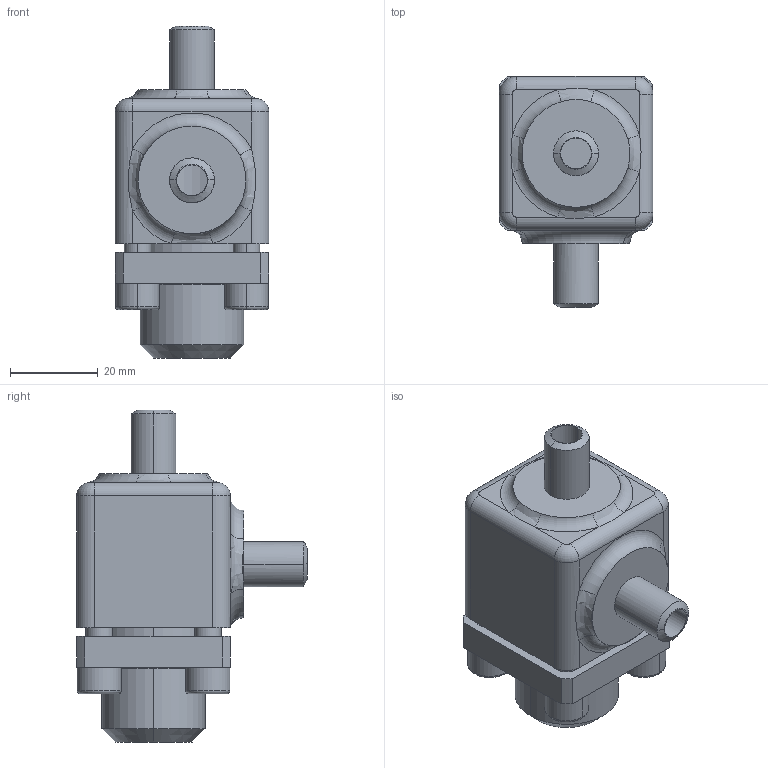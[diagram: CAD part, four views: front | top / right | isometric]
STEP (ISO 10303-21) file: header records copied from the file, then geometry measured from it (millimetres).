
FILE_DESCRIPTION (( 'STEP AP214' ), '1' );
FILE_NAME ('RV98400-DN006_R1_PS40.STEP', '2006-05-02T09:30:07', ( 'Herr Grams' ), ( 'AWP GmbH' ), 'SwSTEP 2.0', 'SolidWorks 2002296', '' );
FILE_SCHEMA (( 'AUTOMOTIVE_DESIGN' ));
Length unit declared in the file: millimetre
Products named in the file (5): RV98400-DN006_R1_PS40; Gehäuse96400E06-DN06_PS40_R1_Standard; RV98300E10_Deck+Schr-DN6-15_Standard; Deckel98300E10-DN6-15_PS40_Standard; Zylinderschraube-DIN912_M 6x 18
Assembly tree (7 placements, depth 3):
  RV98400-DN006_R1_PS40
    Gehäuse96400E06-DN06_PS40_R1_Standard
    RV98300E10_Deck+Schr-DN6-15_Standard
      Zylinderschraube-DIN912_M 6x 18  x4
      Deckel98300E10-DN6-15_PS40_Standard
Bounding box: 35 x 52.5 x 75.5 mm (x, y, z)
Volume: 49250.4 mm3; surface area: 19622.9 mm2
Topology: 6 solids, 6 shells, 173 faces, 381 edges, 236 vertices
Faces by surface type: plane 67, cylinder 62, torus 21, cone 16, bspline 7
Entity records: 8184 total; most frequent: CARTESIAN_POINT 4867, DIRECTION 641, ORIENTED_EDGE 534, EDGE_CURVE 267, AXIS2_PLACEMENT_3D 267, VERTEX_POINT 164, CIRCLE 144, EDGE_LOOP 141
